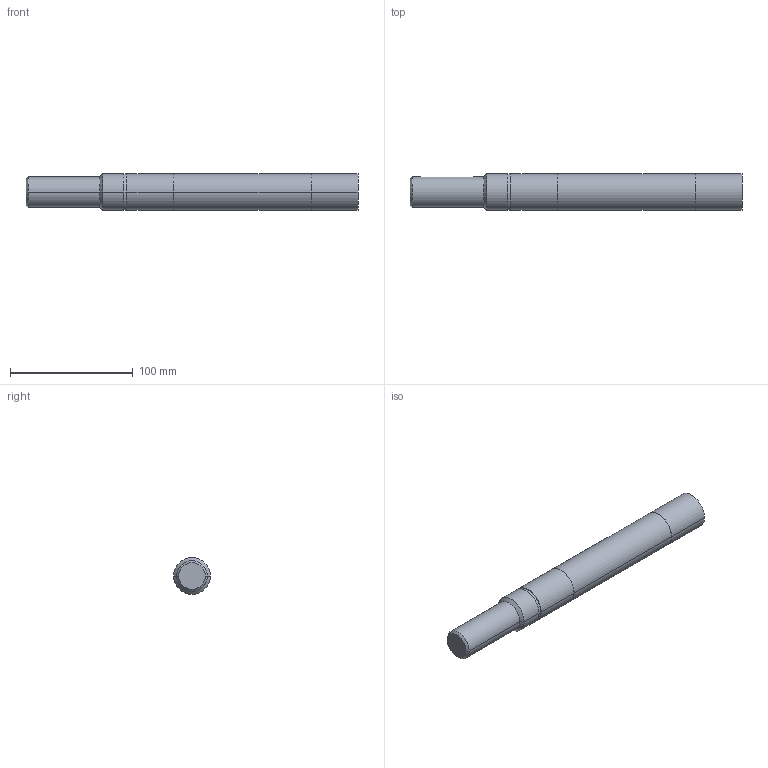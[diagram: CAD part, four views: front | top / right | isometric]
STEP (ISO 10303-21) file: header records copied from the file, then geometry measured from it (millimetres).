
FILE_DESCRIPTION (( 'STEP AP203' ), '1' );
FILE_NAME ('S4-30.STEP', '2002-08-16T10:50:18', ( '.' ), ( '.' ), 'SwSTEP 2.0', 'SolidWorks 2001340', '' );
FILE_SCHEMA (( 'CONFIG_CONTROL_DESIGN' ));
Length unit declared in the file: millimetre
Products named in the file (1): S4-30
Bounding box: 270 x 30 x 30 mm (x, y, z)
Volume: 175063.4 mm3; surface area: 26031.9 mm2
Topology: 1 solids, 1 shells, 26 faces, 55 edges, 34 vertices
Faces by surface type: cylinder 12, plane 8, cone 6
Entity records: 838 total; most frequent: CARTESIAN_POINT 184, DIRECTION 131, ORIENTED_EDGE 110, EDGE_CURVE 55, AXIS2_PLACEMENT_3D 53, VERTEX_POINT 34, EDGE_LOOP 29, ADVANCED_FACE 26
